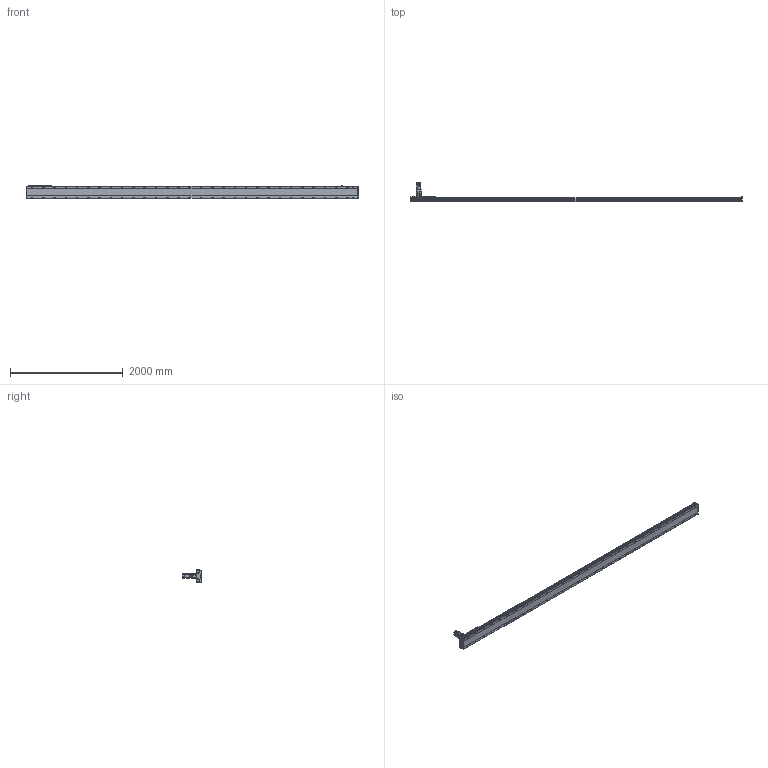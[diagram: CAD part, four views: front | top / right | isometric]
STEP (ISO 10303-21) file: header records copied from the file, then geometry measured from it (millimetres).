
FILE_DESCRIPTION(/* description */ ('STEP AP214'),/* implementation_level */ '2;1');
FILE_NAME(/* name */ 'SHS22A-L13-S5400-BC-T75-C1-N(0)',/* time_stamp */ '2022-06-15T02:29:28+02:00',/* author */ ('License CC BY-ND 4.0'),/* organization */ ('CADENAS'),/* preprocessor_version */ 'ST-DEVELOPER v18.102',/* originating_system */ 'PARTsolutions',/* authorisation */ ' ');
FILE_SCHEMA (('AUTOMOTIVE_DESIGN {1 0 10303 214 3 1 1}'));
Length unit declared in the file: millimetre
Products named in the file (7): SHS22A-L13-S5400-BC-T75-C1-N(0); PSC140-sensor; SHS22A-S5400_body2; T75-p1; SHS22A-S5400_body3; SHS22A-S5400_slider; SHS22A-L13-S5400-BC-T75-C1(0)_body
Assembly tree (13 placements, depth 2):
  SHS22A-L13-S5400-BC-T75-C1-N(0)
    PSC140-sensor  x3
    SHS22A-S5400_body2  x6
    T75-p1
    SHS22A-S5400_body3
    SHS22A-S5400_slider
    SHS22A-L13-S5400-BC-T75-C1(0)_body
Bounding box: 5894 x 350.8 x 238.4 mm (x, y, z)
Volume: 61826611.4 mm3; surface area: 6267370.5 mm2
Topology: 13 solids, 13 shells, 2061 faces, 5255 edges, 3436 vertices
Faces by surface type: plane 1400, cylinder 527, cone 125, torus 9
Full cylindrical faces by diameter (mm): 2.8 x3, 4.2 x2, 4.6 x3, 4.917 x4, 5 x4, 5.6 x24, 6 x31, 6.6 x24, 6.647 x8, 6.8 x9, 7.75 x6, 8 x3, 8.376 x60, 8.5 x60, 10 x4, 11 x4, 12 x24, 14 x60, 22 x1, 24.1 x1, 28 x1, 28.2 x1, 28.8 x1, 48.542 x1, 68 x1, 70 x1, 78 x1, 80 x2
Entity records: 35962 total; most frequent: CARTESIAN_POINT 6593, DIRECTION 6107, ORIENTED_EDGE 5340, EDGE_CURVE 2670, AXIS2_PLACEMENT_3D 2252, FACE_BOUND 2020, EDGE_LOOP 2019, VERTEX_POINT 1966
